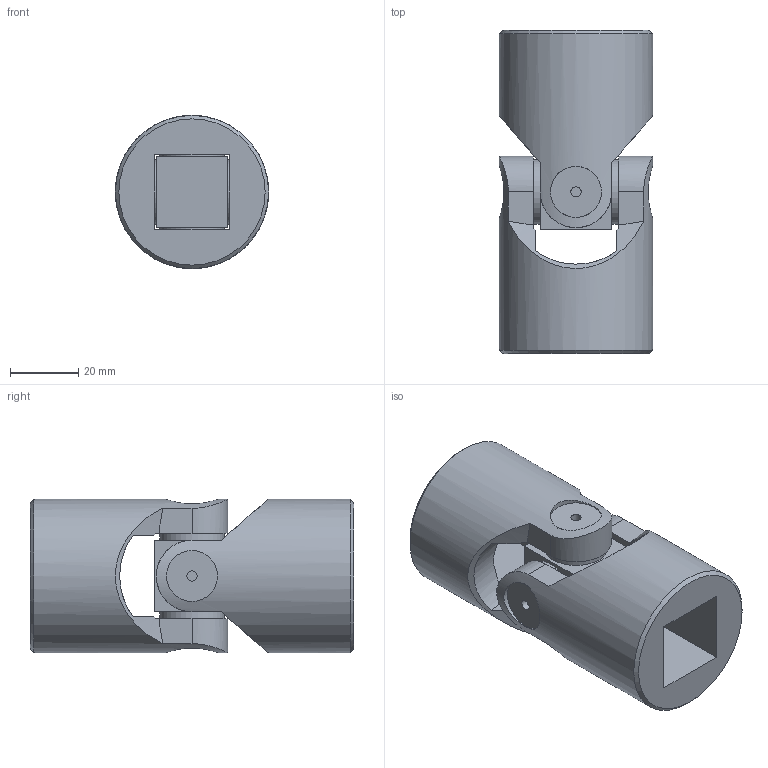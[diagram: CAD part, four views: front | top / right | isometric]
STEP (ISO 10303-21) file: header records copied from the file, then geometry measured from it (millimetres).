
FILE_DESCRIPTION(/* description */ (''),/* implementation_level */ '2;1');
FILE_NAME(/* name */ '\\SRV2016\Societa\Stefano\Disegni 3D\Dis. Clienti\0000Catalogo 3D\01Singoli G-GB\4G-2Q_SG0S222Q.stp',/* time_stamp */ '2021-11-10T11:05:31+01:00',/* author */ ('acquisti'),/* organization */ (''),/* preprocessor_version */ 'ST-DEVELOPER v15.6',/* originating_system */ 'Autodesk Inventor 2015',/* authorisation */ '');
FILE_SCHEMA (('AUTOMOTIVE_DESIGN { 1 0 10303 214 3 1 1 }'));
Length unit declared in the file: millimetre
Products named in the file (3): 4GA SFE; 4G MOQ; Assieme1
Assembly tree (3 placements, depth 2):
  Assieme1
    4GA SFE
    4G MOQ  x2
Bounding box: 45 x 95 x 45 mm (x, y, z)
Volume: 95541.7 mm3; surface area: 26844.2 mm2
Topology: 3 solids, 3 shells, 90 faces, 228 edges, 154 vertices
Faces by surface type: plane 44, cylinder 26, cone 18, torus 2
Full cylindrical faces by diameter (mm): 3 x4, 15 x4, 19 x4, 45 x2
Entity records: 1733 total; most frequent: CARTESIAN_POINT 529, ORIENTED_EDGE 230, DIRECTION 228, EDGE_CURVE 115, AXIS2_PLACEMENT_3D 94, VERTEX_POINT 85, EDGE_LOOP 72, FACE_OUTER_BOUND 52
